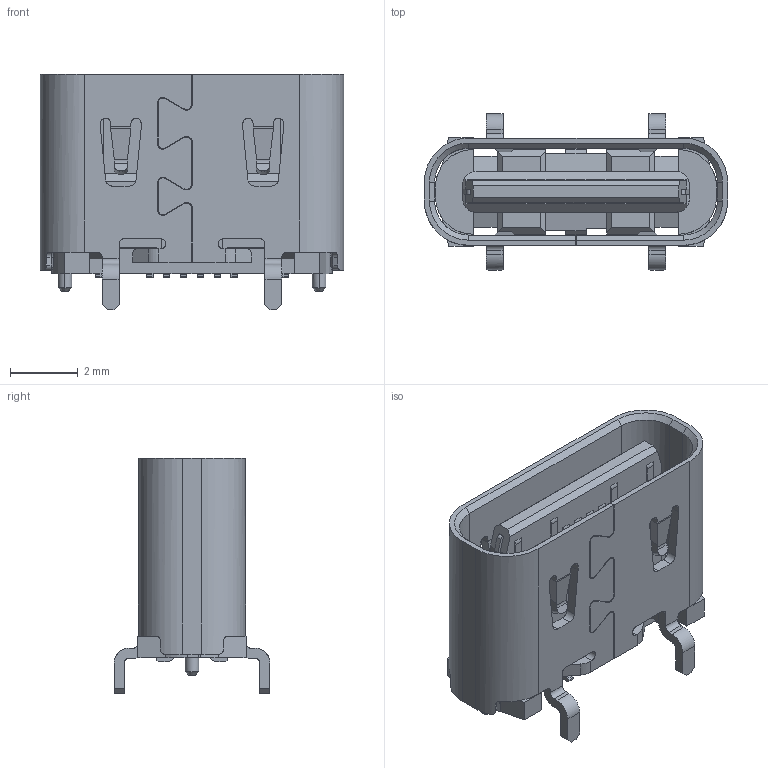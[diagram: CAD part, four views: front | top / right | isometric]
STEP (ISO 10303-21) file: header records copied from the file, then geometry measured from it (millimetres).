
FILE_DESCRIPTION (( 'STEP AP214' ), '1' );
FILE_NAME ('CF 16P直立式立贴H6.0铁壳带弹片 带logo2.STEP', '2024-06-12T06:53:22', ( '微软用户' ), ( '微软中国' ), 'SwSTEP 2.0', 'SolidWorks 2022', '' );
FILE_SCHEMA (( 'AUTOMOTIVE_DESIGN' ));
Length unit declared in the file: millimetre
Products named in the file (1): CF 16P直立式立贴H6.0铁壳带弹片 带logo2
Bounding box: 8.94 x 4.6 x 6.95 mm (x, y, z)
Volume: 79.3 mm3; surface area: 399 mm2
Topology: 1 solids, 1 shells, 769 faces, 2205 edges, 1419 vertices
Faces by surface type: plane 551, cylinder 191, cone 20, bspline 7
Entity records: 32963 total; most frequent: CARTESIAN_POINT 7216, ORIENTED_EDGE 4410, DIRECTION 3227, EDGE_CURVE 2205, LINE 1577, VECTOR 1577, VERTEX_POINT 1419, AXIS2_PLACEMENT_3D 825
